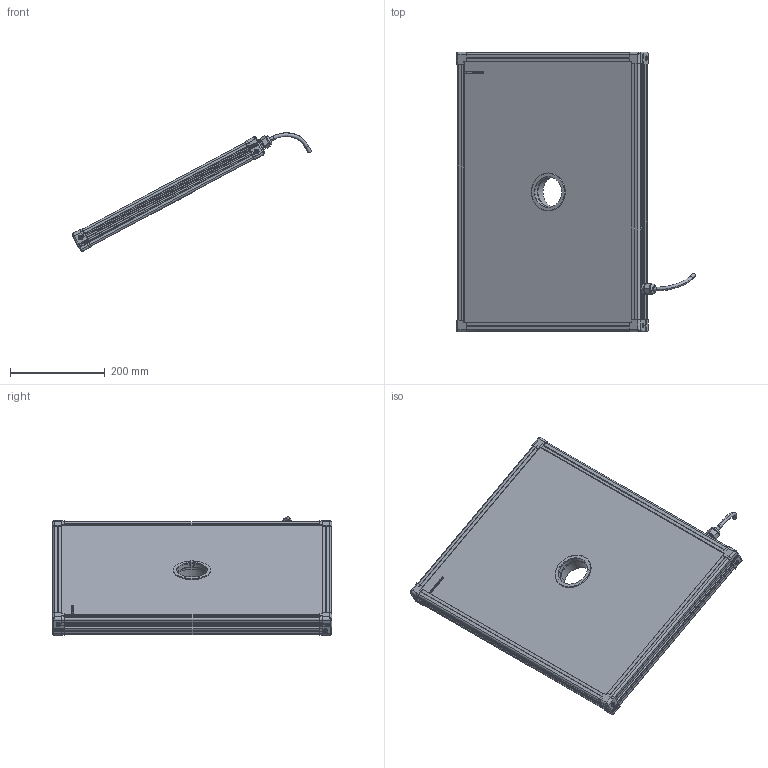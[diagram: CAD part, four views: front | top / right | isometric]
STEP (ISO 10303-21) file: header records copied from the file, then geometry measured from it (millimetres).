
FILE_DESCRIPTION (( 'STEP AP214' ), '1' );
FILE_NAME ('EFFI-FD-400-550-ZZZ-1M12P.STEP', '2021-06-24T07:43:46', ( '' ), ( '' ), 'SwSTEP 2.0', 'SolidWorks 2021', '' );
FILE_SCHEMA (( 'AUTOMOTIVE_DESIGN' ));
Length unit declared in the file: millimetre
Products named in the file (13): M12 power_AVEC CABLE D8.1; 004409; 004408; profile X_PERCE; profile Y_PERCE; Assemblage Ø65; EFFI-FD-400-550-ZZZ-1M12P; 000590; 000629; petite joue + vis; petite joue; Pièce13^EFFI-FD-XXX-YYY-ZZZ (1 connecteur) M12POWER Ø65
Assembly tree (19 placements, depth 3):
  EFFI-FD-400-550-ZZZ-1M12P
    profile X_PERCE  x2
    profile Y_PERCE
    profile Y_PERCE
    Pièce13^EFFI-FD-XXX-YYY-ZZZ (1 connecteur) M12POWER Ø65
    petite joue + vis  x4
      petite joue
      000629
    M12 power_AVEC CABLE D8.1
    Assemblage Ø65
      004408
      004409
      000590  x3
Bounding box: 503.1 x 589 x 249.72 mm (x, y, z)
Volume: 8841341 mm3; surface area: 857101 mm2
Topology: 22 solids, 25 shells, 3951 faces, 10520 edges, 6907 vertices
Faces by surface type: plane 2447, cylinder 720, bspline 591, cone 156, torus 29, sphere 8
Entity records: 56000 total; most frequent: CARTESIAN_POINT 22561, ORIENTED_EDGE 7014, DIRECTION 5746, EDGE_CURVE 3509, VECTOR 2458, LINE 2458, VERTEX_POINT 2308, AXIS2_PLACEMENT_3D 1644
